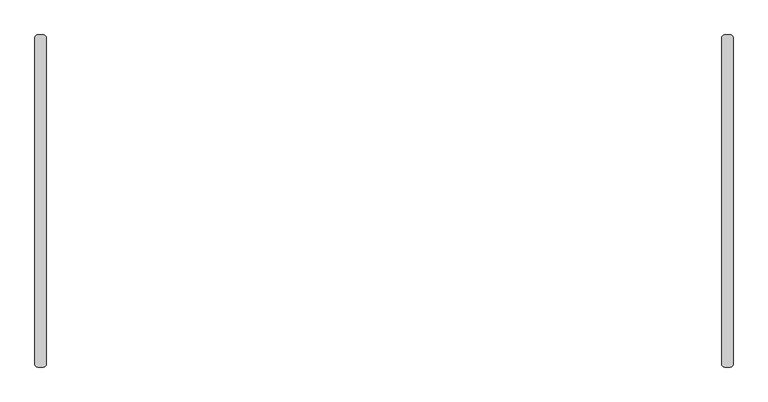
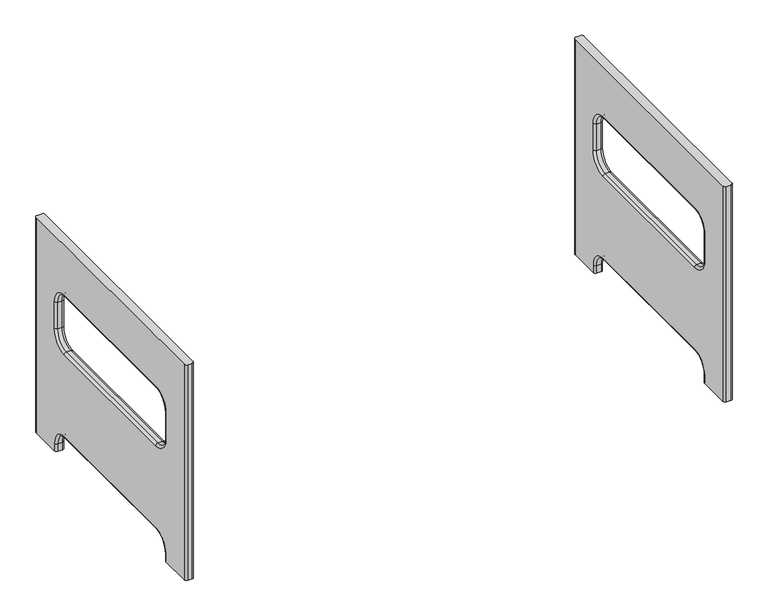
"""IFC4 building model written with IfcOpenShell, lengths in millimetres: furniture geometry, SSL-Childcraft_Outdoor-Table-Rectangle : 2161350."""

from ifc_helpers import new_model, si_unit, point, frame, origin, place, context, project, spatial, polyline, circle_curve, ellipse_curve, trimmed, source, transform, mapped, element, save
from ifc_brep_helpers import plane_surface, cylinder_surface, revolved_surface, advanced_brep


def furniture_e856df1a(model_context):
    return source(origin(), model_context, "Body", "AdvancedBrep", [
        advanced_brep(
        [(-573.0875, 279.4, 488.95), (-582.6125, 279.4, 488.95), (-587.375, 274.6375, 488.95), (-587.375, -274.6375, 488.95), (-582.6125, -279.4, 488.95), (-573.0875, -279.4, 488.95), (-568.325, -274.6375, 488.95), (-568.325, 274.6375, 488.95), (-573.0875, 279.4, 0.0), (-568.325, 274.6375, 0.0), (-568.325, 207.16875, 0.0), (-573.0875, 202.40625, 0.0), (-582.6125, 202.40625, 0.0), (-587.375, 207.16875, 0.0), (-587.375, 274.6375, 0.0), (-582.6125, 279.4, 0.0), (-573.0875, -279.4, 0.0), (-582.6125, -279.4, 0.0), (-587.375, -274.6375, 0.0), (-587.375, -207.16875, 0.0), (-582.6125, -202.40625, 0.0), (-573.0875, -202.40625, 0.0), (-568.325, -207.16875, 0.0), (-568.325, -274.6375, 0.0), (-587.375, 207.16875, 17.4625), (-587.375, 169.8625, 54.76875), (-587.375, -169.8625, 54.76875), (-587.375, -207.16875, 17.4625), (-587.375, -169.8625, 375.44375), (-587.375, -207.16875, 338.1375), (-587.375, -207.16875, 277.8125), (-587.375, -169.8625, 240.50625), (-587.375, 169.8625, 240.50625), (-587.375, 207.16875, 277.8125), (-587.375, 207.16875, 338.1375), (-587.375, 169.8625, 375.44375), (-568.325, -207.16875, 17.4625), (-568.325, -169.8625, 54.76875), (-568.325, 169.8625, 54.76875), (-568.325, 207.16875, 17.4625), (-568.325, -207.16875, 338.1375), (-568.325, -169.8625, 375.44375), (-568.325, 169.8625, 375.44375), (-568.325, 207.16875, 338.1375), (-568.325, 207.16875, 277.8125), (-568.325, 169.8625, 240.50625), (-568.325, -169.8625, 240.50625), (-568.325, -207.16875, 277.8125), (-582.6125, -202.40625, 17.4625), (-573.0875, -202.40625, 17.4625), (-582.6125, -169.8625, 50.00625), (-573.0875, -169.8625, 50.00625), (-582.6125, 169.8625, 50.00625), (-573.0875, 169.8625, 50.00625), (-582.6125, 202.40625, 17.4625), (-573.0875, 202.40625, 17.4625), (-573.0875, -202.40625, 338.1375), (-573.0875, -169.8625, 370.68125), (-582.6125, -202.40625, 338.1375), (-582.6125, -169.8625, 370.68125), (-573.0875, -202.40625, 277.8125), (-582.6125, -202.40625, 277.8125), (-573.0875, -169.8625, 245.26875), (-582.6125, -169.8625, 245.26875), (-573.0875, 169.8625, 245.26875), (-582.6125, 169.8625, 245.26875), (-573.0875, 202.40625, 277.8125), (-582.6125, 202.40625, 277.8125), (-573.0875, 202.40625, 338.1375), (-582.6125, 202.40625, 338.1375), (-573.0875, 169.8625, 370.68125), (-582.6125, 169.8625, 370.68125)],
        [
            (0, 1),
            (1, 2, circle_curve(frame((-582.6125, 274.6375, 488.95), z_axis=(0.0, 0.0, 1.0), x_axis=(1.0, 0.0, 0.0)), 4.7625)),
            (2, 3),
            (3, 4, circle_curve(frame((-582.6125, -274.6375, 488.95), z_axis=(0.0, 0.0, 1.0), x_axis=(1.0, 0.0, 0.0)), 4.7625)),
            (4, 5),
            (5, 6, circle_curve(frame((-573.0875, -274.6375, 488.95), z_axis=(0.0, 0.0, 1.0), x_axis=(1.0, 0.0, 0.0)), 4.7625)),
            (6, 7),
            (7, 0, circle_curve(frame((-573.0875, 274.6375, 488.95), z_axis=(0.0, 0.0, 1.0), x_axis=(1.0, 0.0, 0.0)), 4.7625)),
            (8, 9, circle_curve(frame((-573.0875, 274.6375, 0.0), z_axis=(0.0, 0.0, -1.0), x_axis=(1.0, 0.0, 0.0)), 4.7625)),
            (9, 10),
            (10, 11, circle_curve(frame((-573.0875, 207.16875, 0.0), z_axis=(0.0, 0.0, -1.0), x_axis=(0.0, 1.0, 0.0)), 4.7625)),
            (11, 12),
            (12, 13, circle_curve(frame((-582.6125, 207.16875, 0.0), z_axis=(0.0, 0.0, -1.0), x_axis=(0.0, 1.0, 0.0)), 4.7625)),
            (13, 14),
            (14, 15, circle_curve(frame((-582.6125, 274.6375, 0.0), z_axis=(0.0, 0.0, -1.0), x_axis=(1.0, 0.0, 0.0)), 4.7625)),
            (15, 8),
            (16, 17),
            (17, 18, circle_curve(frame((-582.6125, -274.6375, 0.0), z_axis=(0.0, 0.0, -1.0), x_axis=(1.0, 0.0, 0.0)), 4.7625)),
            (18, 19),
            (19, 20, circle_curve(frame((-582.6125, -207.16875, 0.0), z_axis=(0.0, 0.0, -1.0), x_axis=(0.0, -1.0, 0.0)), 4.7625)),
            (20, 21),
            (21, 22, circle_curve(frame((-573.0875, -207.16875, 0.0), z_axis=(0.0, 0.0, -1.0), x_axis=(0.0, -1.0, 0.0)), 4.7625)),
            (22, 23),
            (23, 16, circle_curve(frame((-573.0875, -274.6375, 0.0), z_axis=(0.0, 0.0, -1.0), x_axis=(1.0, 0.0, 0.0)), 4.7625)),
            (0, 8),
            (15, 1),
            (14, 2),
            (13, 24),
            (24, 25, circle_curve(frame((-587.375, 169.8625, 17.4625), z_axis=(1.0, 0.0, 0.0), x_axis=(0.0, 0.0, 1.0)), 37.30625)),
            (25, 26),
            (26, 27, circle_curve(frame((-587.375, -169.8625, 17.4625), z_axis=(1.0, 0.0, 0.0), x_axis=(0.0, -1.0, 0.0)), 37.30625)),
            (27, 19),
            (18, 3),
            (28, 29, circle_curve(frame((-587.375, -169.8625, 338.1375), z_axis=(1.0, 0.0, 0.0), x_axis=(0.0, 0.0, 1.0)), 37.30625)),
            (29, 30),
            (30, 31, circle_curve(frame((-587.375, -169.8625, 277.8125), z_axis=(1.0, 0.0, 0.0), x_axis=(0.0, -1.0, 0.0)), 37.30625)),
            (31, 32),
            (32, 33, circle_curve(frame((-587.375, 169.8625, 277.8125), z_axis=(1.0, 0.0, 0.0), x_axis=(0.0, 0.0, -1.0)), 37.30625)),
            (33, 34),
            (34, 35, circle_curve(frame((-587.375, 169.8625, 338.1375), z_axis=(1.0, 0.0, 0.0), x_axis=(0.0, 1.0, 0.0)), 37.30625)),
            (35, 28),
            (9, 7),
            (6, 23),
            (22, 36),
            (36, 37, circle_curve(frame((-568.325, -169.8625, 17.4625), z_axis=(-1.0, 0.0, 0.0), x_axis=(0.0, -1.0, 0.0)), 37.30625)),
            (37, 38),
            (38, 39, circle_curve(frame((-568.325, 169.8625, 17.4625), z_axis=(-1.0, 0.0, 0.0), x_axis=(0.0, 0.0, 1.0)), 37.30625)),
            (39, 10),
            (40, 41, circle_curve(frame((-568.325, -169.8625, 338.1375), z_axis=(-1.0, 0.0, 0.0), x_axis=(0.0, 0.0, 1.0)), 37.30625)),
            (41, 42),
            (42, 43, circle_curve(frame((-568.325, 169.8625, 338.1375), z_axis=(-1.0, 0.0, 0.0), x_axis=(0.0, 1.0, 0.0)), 37.30625)),
            (43, 44),
            (44, 45, circle_curve(frame((-568.325, 169.8625, 277.8125), z_axis=(-1.0, 0.0, 0.0), x_axis=(0.0, 0.0, -1.0)), 37.30625)),
            (45, 46),
            (46, 47, circle_curve(frame((-568.325, -169.8625, 277.8125), z_axis=(-1.0, 0.0, 0.0), x_axis=(0.0, -1.0, 0.0)), 37.30625)),
            (47, 40),
            (5, 16),
            (17, 4),
            (27, 48, circle_curve(frame((-582.6125, -207.16875, 17.4625), z_axis=(0.0, 0.0, -1.0), x_axis=(0.0, -1.0, 0.0)), 4.7625)),
            (48, 20),
            (48, 49),
            (49, 21),
            (49, 36, circle_curve(frame((-573.0875, -207.16875, 17.4625), z_axis=(0.0, 0.0, -1.0), x_axis=(0.0, -1.0, 0.0)), 4.7625)),
            (26, 50, circle_curve(frame((-582.6125, -169.8625, 54.76875), z_axis=(0.0, -1.0, 0.0), x_axis=(0.0, 0.0, 1.0)), 4.7625)),
            (50, 48, circle_curve(frame((-582.6125, -169.8625, 17.4625), z_axis=(1.0, 0.0, 0.0), x_axis=(0.0, -1.0, 0.0)), 32.54375)),
            (50, 51),
            (51, 49, circle_curve(frame((-573.0875, -169.8625, 17.4625), z_axis=(1.0, 0.0, 0.0), x_axis=(0.0, -1.0, 0.0)), 32.54375)),
            (51, 37, circle_curve(frame((-573.0875, -169.8625, 54.76875), z_axis=(0.0, -1.0, 0.0), x_axis=(0.0, 0.0, 1.0)), 4.7625)),
            (25, 52, circle_curve(frame((-582.6125, 169.8625, 54.76875), z_axis=(0.0, -1.0, 0.0), x_axis=(0.0, 0.0, 1.0)), 4.7625)),
            (52, 50),
            (52, 53),
            (53, 51),
            (53, 38, circle_curve(frame((-573.0875, 169.8625, 54.76875), z_axis=(0.0, -1.0, 0.0), x_axis=(0.0, 0.0, 1.0)), 4.7625)),
            (24, 54, circle_curve(frame((-582.6125, 207.16875, 17.4625), z_axis=(0.0, 0.0, 1.0), x_axis=(0.0, 1.0, 0.0)), 4.7625)),
            (54, 52, circle_curve(frame((-582.6125, 169.8625, 17.4625), z_axis=(1.0, 0.0, 0.0), x_axis=(0.0, 0.0, 1.0)), 32.54375)),
            (54, 55),
            (55, 53, circle_curve(frame((-573.0875, 169.8625, 17.4625), z_axis=(1.0, 0.0, 0.0), x_axis=(0.0, 0.0, 1.0)), 32.54375)),
            (55, 39, circle_curve(frame((-573.0875, 207.16875, 17.4625), z_axis=(0.0, 0.0, 1.0), x_axis=(0.0, 1.0, 0.0)), 4.7625)),
            (12, 54),
            (11, 55),
            (56, 57, circle_curve(frame((-573.0875, -169.8625, 338.1375), z_axis=(-1.0, 0.0, 0.0), x_axis=(0.0, 0.0, 1.0)), 32.54375)),
            (57, 41, circle_curve(frame((-573.0875, -169.8625, 375.44375), z_axis=(0.0, -1.0, 0.0), x_axis=(0.0, 0.0, -1.0)), 4.7625)),
            (40, 56, circle_curve(frame((-573.0875, -207.16875, 338.1375), z_axis=(0.0, 0.0, 1.0), x_axis=(0.0, 1.0, 0.0)), 4.7625)),
            (56, 58),
            (58, 59, circle_curve(frame((-582.6125, -169.8625, 338.1375), z_axis=(-1.0, 0.0, 0.0), x_axis=(0.0, 0.0, 1.0)), 32.54375)),
            (59, 57),
            (58, 29, circle_curve(frame((-582.6125, -207.16875, 338.1375), z_axis=(0.0, 0.0, 1.0), x_axis=(0.0, 1.0, 0.0)), 4.7625)),
            (28, 59, circle_curve(frame((-582.6125, -169.8625, 375.44375), z_axis=(0.0, -1.0, 0.0), x_axis=(0.0, 0.0, -1.0)), 4.7625)),
            (47, 60, circle_curve(frame((-573.0875, -207.16875, 277.8125), z_axis=(0.0, 0.0, 1.0), x_axis=(0.0, 1.0, 0.0)), 4.7625)),
            (60, 56),
            (60, 61),
            (61, 58),
            (61, 30, circle_curve(frame((-582.6125, -207.16875, 277.8125), z_axis=(0.0, 0.0, 1.0), x_axis=(0.0, 1.0, 0.0)), 4.7625)),
            (46, 62, circle_curve(frame((-573.0875, -169.8625, 240.50625), z_axis=(0.0, -1.0, 0.0), x_axis=(0.0, 0.0, 1.0)), 4.7625)),
            (62, 60, circle_curve(frame((-573.0875, -169.8625, 277.8125), z_axis=(-1.0, 0.0, 0.0), x_axis=(0.0, -1.0, 0.0)), 32.54375)),
            (62, 63),
            (63, 61, circle_curve(frame((-582.6125, -169.8625, 277.8125), z_axis=(-1.0, 0.0, 0.0), x_axis=(0.0, -1.0, 0.0)), 32.54375)),
            (63, 31, circle_curve(frame((-582.6125, -169.8625, 240.50625), z_axis=(0.0, -1.0, 0.0), x_axis=(0.0, 0.0, 1.0)), 4.7625)),
            (45, 64, circle_curve(frame((-573.0875, 169.8625, 240.50625), z_axis=(0.0, -1.0, 0.0), x_axis=(0.0, 0.0, 1.0)), 4.7625)),
            (64, 62),
            (64, 65),
            (65, 63),
            (65, 32, circle_curve(frame((-582.6125, 169.8625, 240.50625), z_axis=(0.0, -1.0, 0.0), x_axis=(0.0, 0.0, 1.0)), 4.7625)),
            (44, 66, circle_curve(frame((-573.0875, 207.16875, 277.8125), z_axis=(0.0, 0.0, -1.0), x_axis=(0.0, -1.0, 0.0)), 4.7625)),
            (66, 64, circle_curve(frame((-573.0875, 169.8625, 277.8125), z_axis=(-1.0, 0.0, 0.0), x_axis=(0.0, 0.0, -1.0)), 32.54375)),
            (66, 67),
            (67, 65, circle_curve(frame((-582.6125, 169.8625, 277.8125), z_axis=(-1.0, 0.0, 0.0), x_axis=(0.0, 0.0, -1.0)), 32.54375)),
            (67, 33, circle_curve(frame((-582.6125, 207.16875, 277.8125), z_axis=(0.0, 0.0, -1.0), x_axis=(0.0, -1.0, 0.0)), 4.7625)),
            (43, 68, circle_curve(frame((-573.0875, 207.16875, 338.1375), z_axis=(0.0, 0.0, -1.0), x_axis=(0.0, -1.0, 0.0)), 4.7625)),
            (68, 66),
            (68, 69),
            (69, 67),
            (69, 34, circle_curve(frame((-582.6125, 207.16875, 338.1375), z_axis=(0.0, 0.0, -1.0), x_axis=(0.0, -1.0, 0.0)), 4.7625)),
            (42, 70, circle_curve(frame((-573.0875, 169.8625, 375.44375), z_axis=(0.0, 1.0, 0.0), x_axis=(0.0, 0.0, -1.0)), 4.7625)),
            (70, 68, circle_curve(frame((-573.0875, 169.8625, 338.1375), z_axis=(-1.0, 0.0, 0.0), x_axis=(0.0, 1.0, 0.0)), 32.54375)),
            (70, 71),
            (71, 69, circle_curve(frame((-582.6125, 169.8625, 338.1375), z_axis=(-1.0, 0.0, 0.0), x_axis=(0.0, 1.0, 0.0)), 32.54375)),
            (71, 35, circle_curve(frame((-582.6125, 169.8625, 375.44375), z_axis=(0.0, 1.0, 0.0), x_axis=(0.0, 0.0, -1.0)), 4.7625)),
            (57, 70),
            (59, 71),
        ],
        [
            plane_surface(frame((-582.6125, 279.4, 488.95), z_axis=(0.0, 0.0, 1.0), x_axis=(-1.0, 0.0, 0.0))),
            plane_surface(frame((-582.6125, 279.4, 0.0), z_axis=(0.0, 0.0, -1.0), x_axis=(1.0, 0.0, 0.0))),
            plane_surface(frame((-573.0875, 279.4, 488.95), z_axis=(0.0, 1.0, 0.0), x_axis=(0.0, 0.0, -1.0))),
            cylinder_surface(frame((-582.6125, 274.6375, 0.0), z_axis=(0.0, 0.0, 1.0), x_axis=(1.0, 0.0, 0.0)), 4.7625),
            plane_surface(frame((-587.375, 274.6375, 488.95), z_axis=(-1.0, 0.0, 0.0), x_axis=(0.0, 0.0, -1.0))),
            plane_surface(frame((-568.325, 273.84375, 488.95), z_axis=(1.0, 0.0, 0.0), x_axis=(0.0, 0.0, -1.0))),
            cylinder_surface(frame((-573.0875, 274.6375, 0.0), z_axis=(0.0, 0.0, 1.0), x_axis=(1.0, 0.0, 0.0)), 4.7625),
            cylinder_surface(frame((-573.0875, -274.6375, 0.0), z_axis=(0.0, 0.0, 1.0), x_axis=(1.0, 0.0, 0.0)), 4.7625),
            cylinder_surface(frame((-582.6125, -274.6375, 0.0), z_axis=(0.0, 0.0, 1.0), x_axis=(1.0, 0.0, 0.0)), 4.7625),
            plane_surface(frame((-582.6125, -279.4, 488.95), z_axis=(0.0, -1.0, 0.0), x_axis=(0.0, 0.0, -1.0))),
            cylinder_surface(frame((-582.6125, -207.16875, 0.0), z_axis=(0.0, 0.0, -1.0), x_axis=(0.0, -1.0, 0.0)), 4.7625),
            plane_surface(frame((-582.6125, -202.40625, 0.0), z_axis=(0.0, 1.0, 0.0), x_axis=(0.0, 0.0, 1.0))),
            cylinder_surface(frame((-573.0875, -207.16875, 0.0), z_axis=(0.0, 0.0, -1.0), x_axis=(0.0, -1.0, 0.0)), 4.7625),
            revolved_surface(trimmed(ellipse_curve(frame((-582.6125, -207.16875, 17.4625), z_axis=(0.0, 0.0, -1.0), x_axis=(0.0, -1.0, 0.0)), 4.7625, 4.7625), [point((-587.375, -207.16875, 17.4625))], [point((-582.6125, -202.40625, 17.4625))], True, "CARTESIAN"), (0.0, -169.8625, 17.4625), (-1.0, 0.0, 0.0)),
            revolved_surface(polyline([(-582.6125, -202.40625, 17.4625), (-573.0875, -202.40625, 17.4625)]), (0.0, -169.8625, 17.4625), (-1.0, 0.0, 0.0)),
            revolved_surface(trimmed(ellipse_curve(frame((-573.0875, -207.16875, 17.4625), z_axis=(0.0, 0.0, -1.0), x_axis=(0.0, -1.0, 0.0)), 4.7625, 4.7625), [point((-573.0875, -202.40625, 17.4625))], [point((-568.325, -207.16875, 17.4625))], True, "CARTESIAN"), (0.0, -169.8625, 17.4625), (-1.0, 0.0, 0.0)),
            cylinder_surface(frame((-582.6125, -169.8625, 54.76875), z_axis=(0.0, -1.0, 0.0), x_axis=(0.0, 0.0, 1.0)), 4.7625),
            plane_surface(frame((-582.6125, -169.8625, 50.00625), z_axis=(0.0, 0.0, -1.0), x_axis=(0.0, 1.0, 0.0))),
            cylinder_surface(frame((-573.0875, -169.8625, 54.76875), z_axis=(0.0, -1.0, 0.0), x_axis=(0.0, 0.0, 1.0)), 4.7625),
            revolved_surface(trimmed(ellipse_curve(frame((-582.6125, 169.8625, 54.76875), z_axis=(0.0, -1.0, 0.0), x_axis=(0.0, 0.0, 1.0)), 4.7625, 4.7625), [point((-587.375, 169.8625, 54.76875))], [point((-582.6125, 169.8625, 50.00625))], True, "CARTESIAN"), (0.0, 169.8625, 17.4625), (-1.0, 0.0, 0.0)),
            revolved_surface(polyline([(-582.6125, 169.8625, 50.00625), (-573.0875, 169.8625, 50.00625)]), (0.0, 169.8625, 17.4625), (-1.0, 0.0, 0.0)),
            revolved_surface(trimmed(ellipse_curve(frame((-573.0875, 169.8625, 54.76875), z_axis=(0.0, -1.0, 0.0), x_axis=(0.0, 0.0, 1.0)), 4.7625, 4.7625), [point((-573.0875, 169.8625, 50.00625))], [point((-568.325, 169.8625, 54.76875))], True, "CARTESIAN"), (0.0, 169.8625, 17.4625), (-1.0, 0.0, 0.0)),
            cylinder_surface(frame((-582.6125, 207.16875, 17.4625), z_axis=(0.0, 0.0, 1.0), x_axis=(0.0, 1.0, 0.0)), 4.7625),
            plane_surface(frame((-582.6125, 202.40625, 17.4625), z_axis=(0.0, -1.0, 0.0), x_axis=(0.0, 0.0, -1.0))),
            cylinder_surface(frame((-573.0875, 207.16875, 17.4625), z_axis=(0.0, 0.0, 1.0), x_axis=(0.0, 1.0, 0.0)), 4.7625),
            revolved_surface(trimmed(ellipse_curve(frame((-573.0875, -169.8625, 375.44375), z_axis=(0.0, 1.0, 0.0), x_axis=(0.0, 0.0, -1.0)), 4.7625, 4.7625), [point((-568.325, -169.8625, 375.44375))], [point((-573.0875, -169.8625, 370.68125))], True, "CARTESIAN"), (0.0, -169.8625, 338.1375), (1.0, 0.0, 0.0)),
            revolved_surface(polyline([(-573.0875, -169.8625, 370.68125), (-582.6125, -169.8625, 370.68125)]), (0.0, -169.8625, 338.1375), (1.0, 0.0, 0.0)),
            revolved_surface(trimmed(ellipse_curve(frame((-582.6125, -169.8625, 375.44375), z_axis=(0.0, 1.0, 0.0), x_axis=(0.0, 0.0, -1.0)), 4.7625, 4.7625), [point((-582.6125, -169.8625, 370.68125))], [point((-587.375, -169.8625, 375.44375))], True, "CARTESIAN"), (0.0, -169.8625, 338.1375), (1.0, 0.0, 0.0)),
            cylinder_surface(frame((-573.0875, -207.16875, 338.1375), z_axis=(0.0, 0.0, 1.0), x_axis=(0.0, 1.0, 0.0)), 4.7625),
            plane_surface(frame((-573.0875, -202.40625, 338.1375), z_axis=(0.0, 1.0, 0.0), x_axis=(0.0, 0.0, -1.0))),
            cylinder_surface(frame((-582.6125, -207.16875, 338.1375), z_axis=(0.0, 0.0, 1.0), x_axis=(0.0, 1.0, 0.0)), 4.7625),
            revolved_surface(trimmed(ellipse_curve(frame((-573.0875, -207.16875, 277.8125), z_axis=(0.0, 0.0, 1.0), x_axis=(0.0, 1.0, 0.0)), 4.7625, 4.7625), [point((-568.325, -207.16875, 277.8125))], [point((-573.0875, -202.40625, 277.8125))], True, "CARTESIAN"), (0.0, -169.8625, 277.8125), (1.0, 0.0, 0.0)),
            revolved_surface(polyline([(-573.0875, -202.40625, 277.8125), (-582.6125, -202.40625, 277.8125)]), (0.0, -169.8625, 277.8125), (1.0, 0.0, 0.0)),
            revolved_surface(trimmed(ellipse_curve(frame((-582.6125, -207.16875, 277.8125), z_axis=(0.0, 0.0, 1.0), x_axis=(0.0, 1.0, 0.0)), 4.7625, 4.7625), [point((-582.6125, -202.40625, 277.8125))], [point((-587.375, -207.16875, 277.8125))], True, "CARTESIAN"), (0.0, -169.8625, 277.8125), (1.0, 0.0, 0.0)),
            cylinder_surface(frame((-573.0875, -169.8625, 240.50625), z_axis=(0.0, -1.0, 0.0), x_axis=(0.0, 0.0, 1.0)), 4.7625),
            plane_surface(frame((-573.0875, -169.8625, 245.26875), z_axis=(0.0, 0.0, 1.0), x_axis=(0.0, 1.0, 0.0))),
            cylinder_surface(frame((-582.6125, -169.8625, 240.50625), z_axis=(0.0, -1.0, 0.0), x_axis=(0.0, 0.0, 1.0)), 4.7625),
            revolved_surface(trimmed(ellipse_curve(frame((-573.0875, 169.8625, 240.50625), z_axis=(0.0, -1.0, 0.0), x_axis=(0.0, 0.0, 1.0)), 4.7625, 4.7625), [point((-568.325, 169.8625, 240.50625))], [point((-573.0875, 169.8625, 245.26875))], True, "CARTESIAN"), (0.0, 169.8625, 277.8125), (1.0, 0.0, 0.0)),
            revolved_surface(polyline([(-573.0875, 169.8625, 245.26875), (-582.6125, 169.8625, 245.26875)]), (0.0, 169.8625, 277.8125), (1.0, 0.0, 0.0)),
            revolved_surface(trimmed(ellipse_curve(frame((-582.6125, 169.8625, 240.50625), z_axis=(0.0, -1.0, 0.0), x_axis=(0.0, 0.0, 1.0)), 4.7625, 4.7625), [point((-582.6125, 169.8625, 245.26875))], [point((-587.375, 169.8625, 240.50625))], True, "CARTESIAN"), (0.0, 169.8625, 277.8125), (1.0, 0.0, 0.0)),
            cylinder_surface(frame((-573.0875, 207.16875, 277.8125), z_axis=(0.0, 0.0, -1.0), x_axis=(0.0, -1.0, 0.0)), 4.7625),
            plane_surface(frame((-573.0875, 202.40625, 277.8125), z_axis=(0.0, -1.0, 0.0), x_axis=(0.0, 0.0, 1.0))),
            cylinder_surface(frame((-582.6125, 207.16875, 277.8125), z_axis=(0.0, 0.0, -1.0), x_axis=(0.0, -1.0, 0.0)), 4.7625),
            revolved_surface(trimmed(ellipse_curve(frame((-573.0875, 207.16875, 338.1375), z_axis=(0.0, 0.0, -1.0), x_axis=(0.0, -1.0, 0.0)), 4.7625, 4.7625), [point((-568.325, 207.16875, 338.1375))], [point((-573.0875, 202.40625, 338.1375))], True, "CARTESIAN"), (0.0, 169.8625, 338.1375), (1.0, 0.0, 0.0)),
            revolved_surface(polyline([(-573.0875, 202.40625, 338.1375), (-582.6125, 202.40625, 338.1375)]), (0.0, 169.8625, 338.1375), (1.0, 0.0, 0.0)),
            revolved_surface(trimmed(ellipse_curve(frame((-582.6125, 207.16875, 338.1375), z_axis=(0.0, 0.0, -1.0), x_axis=(0.0, -1.0, 0.0)), 4.7625, 4.7625), [point((-582.6125, 202.40625, 338.1375))], [point((-587.375, 207.16875, 338.1375))], True, "CARTESIAN"), (0.0, 169.8625, 338.1375), (1.0, 0.0, 0.0)),
            cylinder_surface(frame((-573.0875, 169.8625, 375.44375), z_axis=(0.0, 1.0, 0.0), x_axis=(0.0, 0.0, -1.0)), 4.7625),
            plane_surface(frame((-573.0875, 169.8625, 370.68125), z_axis=(0.0, 0.0, -1.0), x_axis=(0.0, -1.0, 0.0))),
            cylinder_surface(frame((-582.6125, 169.8625, 375.44375), z_axis=(0.0, 1.0, 0.0), x_axis=(0.0, 0.0, -1.0)), 4.7625),
        ],
        [
            (0, [[1, 2, 3, 4, 5, 6, 7, 8]]),
            (1, [[9, 10, 11, 12, 13, 14, 15, 16]]),
            (1, [[17, 18, 19, 20, 21, 22, 23, 24]]),
            (2, [[-1, 25, -16, 26]]),
            (3, [[-2, -26, -15, 27]]),
            (4, [[-27, -14, 28, 29, 30, 31, 32, -19, 33, -3], [34, 35, 36, 37, 38, 39, 40, 41]]),
            (5, [[42, -7, 43, -23, 44, 45, 46, 47, 48, -10], [49, 50, 51, 52, 53, 54, 55, 56]]),
            (6, [[-8, -42, -9, -25]]),
            (7, [[-6, 57, -24, -43]]),
            (8, [[-4, -33, -18, 58]]),
            (9, [[-5, -58, -17, -57]]),
            (10, [[-20, -32, 59, 60]]),
            (11, [[-21, -60, 61, 62]]),
            (12, [[-22, -62, 63, -44]]),
            (13, [[-31, 64, 65, -59]]),
            (14, [[-61, -65, 66, 67]]),
            (15, [[-63, -67, 68, -45]]),
            (16, [[-30, 69, 70, -64]]),
            (17, [[-66, -70, 71, 72]]),
            (18, [[-46, -68, -72, 73]]),
            (19, [[-29, 74, 75, -69]]),
            (20, [[-71, -75, 76, 77]]),
            (21, [[-47, -73, -77, 78]]),
            (22, [[-28, -13, 79, -74]]),
            (23, [[-76, -79, -12, 80]]),
            (24, [[-48, -78, -80, -11]]),
            (25, [[81, 82, -49, 83]]),
            (26, [[-81, 84, 85, 86]]),
            (27, [[-85, 87, -34, 88]]),
            (28, [[-83, -56, 89, 90]]),
            (29, [[-84, -90, 91, 92]]),
            (30, [[-87, -92, 93, -35]]),
            (31, [[-89, -55, 94, 95]]),
            (32, [[-91, -95, 96, 97]]),
            (33, [[-93, -97, 98, -36]]),
            (34, [[-94, -54, 99, 100]]),
            (35, [[-96, -100, 101, 102]]),
            (36, [[-98, -102, 103, -37]]),
            (37, [[-99, -53, 104, 105]]),
            (38, [[-101, -105, 106, 107]]),
            (39, [[-103, -107, 108, -38]]),
            (40, [[-104, -52, 109, 110]]),
            (41, [[-106, -110, 111, 112]]),
            (42, [[-108, -112, 113, -39]]),
            (43, [[-109, -51, 114, 115]]),
            (44, [[-111, -115, 116, 117]]),
            (45, [[-113, -117, 118, -40]]),
            (46, [[-82, 119, -114, -50]]),
            (47, [[-86, 120, -116, -119]]),
            (48, [[-88, -41, -118, -120]]),
        ],
    ),
        advanced_brep(
        [(573.0875, 279.4, 488.95), (568.325, 274.6375, 488.95), (568.325, -274.6375, 488.95), (573.0875, -279.4, 488.95), (582.6125, -279.4, 488.95), (587.375, -274.6375, 488.95), (587.375, 274.6375, 488.95), (582.6125, 279.4, 488.95), (573.0875, 279.4, 0.0), (582.6125, 279.4, 0.0), (587.375, 274.6375, 0.0), (587.375, 207.16875, 0.0), (582.6125, 202.40625, 0.0), (573.0875, 202.40625, 0.0), (568.325, 207.16875, 0.0), (568.325, 274.6375, 0.0), (568.325, -207.16875, 0.0), (573.0875, -202.40625, 0.0), (582.6125, -202.40625, 0.0), (587.375, -207.16875, 0.0), (587.375, -274.6375, 0.0), (582.6125, -279.4, 0.0), (573.0875, -279.4, 0.0), (568.325, -274.6375, 0.0), (568.325, 207.16875, 17.4625), (568.325, 169.8625, 54.76875), (568.325, -169.8625, 54.76875), (568.325, -207.16875, 17.4625), (568.325, -169.8625, 375.44375), (568.325, -207.16875, 338.1375), (568.325, -207.16875, 277.8125), (568.325, -169.8625, 240.50625), (568.325, 169.8625, 240.50625), (568.325, 207.16875, 277.8125), (568.325, 207.16875, 338.1375), (568.325, 169.8625, 375.44375), (587.375, -207.16875, 17.4625), (587.375, -169.8625, 54.76875), (587.375, 169.8625, 54.76875), (587.375, 207.16875, 17.4625), (587.375, -207.16875, 338.1375), (587.375, -169.8625, 375.44375), (587.375, 169.8625, 375.44375), (587.375, 207.16875, 338.1375), (587.375, 207.16875, 277.8125), (587.375, 169.8625, 240.50625), (587.375, -169.8625, 240.50625), (587.375, -207.16875, 277.8125), (573.0875, -202.40625, 17.4625), (582.6125, -202.40625, 17.4625), (573.0875, -169.8625, 50.00625), (582.6125, -169.8625, 50.00625), (573.0875, 169.8625, 50.00625), (582.6125, 169.8625, 50.00625), (573.0875, 202.40625, 17.4625), (582.6125, 202.40625, 17.4625), (582.6125, -202.40625, 338.1375), (582.6125, -169.8625, 370.68125), (573.0875, -202.40625, 338.1375), (573.0875, -169.8625, 370.68125), (582.6125, -202.40625, 277.8125), (573.0875, -202.40625, 277.8125), (582.6125, -169.8625, 245.26875), (573.0875, -169.8625, 245.26875), (582.6125, 169.8625, 245.26875), (573.0875, 169.8625, 245.26875), (582.6125, 202.40625, 277.8125), (573.0875, 202.40625, 277.8125), (582.6125, 202.40625, 338.1375), (573.0875, 202.40625, 338.1375), (582.6125, 169.8625, 370.68125), (573.0875, 169.8625, 370.68125)],
        [
            (0, 1, circle_curve(frame((573.0875, 274.6375, 488.95), z_axis=(0.0, 0.0, 1.0), x_axis=(1.0, 0.0, 0.0)), 4.7625)),
            (1, 2),
            (2, 3, circle_curve(frame((573.0875, -274.6375, 488.95), z_axis=(0.0, 0.0, 1.0), x_axis=(1.0, 0.0, 0.0)), 4.7625)),
            (3, 4),
            (4, 5, circle_curve(frame((582.6125, -274.6375, 488.95), z_axis=(0.0, 0.0, 1.0), x_axis=(1.0, 0.0, 0.0)), 4.7625)),
            (5, 6),
            (6, 7, circle_curve(frame((582.6125, 274.6375, 488.95), z_axis=(0.0, 0.0, 1.0), x_axis=(1.0, 0.0, 0.0)), 4.7625)),
            (7, 0),
            (8, 9),
            (9, 10, circle_curve(frame((582.6125, 274.6375, 0.0), z_axis=(0.0, 0.0, -1.0), x_axis=(1.0, 0.0, 0.0)), 4.7625)),
            (10, 11),
            (11, 12, circle_curve(frame((582.6125, 207.16875, 0.0), z_axis=(0.0, 0.0, -1.0), x_axis=(0.0, 1.0, 0.0)), 4.7625)),
            (12, 13),
            (13, 14, circle_curve(frame((573.0875, 207.16875, 0.0), z_axis=(0.0, 0.0, -1.0), x_axis=(0.0, 1.0, 0.0)), 4.7625)),
            (14, 15),
            (15, 8, circle_curve(frame((573.0875, 274.6375, 0.0), z_axis=(0.0, 0.0, -1.0), x_axis=(1.0, 0.0, 0.0)), 4.7625)),
            (16, 17, circle_curve(frame((573.0875, -207.16875, 0.0), z_axis=(0.0, 0.0, -1.0), x_axis=(0.0, -1.0, 0.0)), 4.7625)),
            (17, 18),
            (18, 19, circle_curve(frame((582.6125, -207.16875, 0.0), z_axis=(0.0, 0.0, -1.0), x_axis=(0.0, -1.0, 0.0)), 4.7625)),
            (19, 20),
            (20, 21, circle_curve(frame((582.6125, -274.6375, 0.0), z_axis=(0.0, 0.0, -1.0), x_axis=(1.0, 0.0, 0.0)), 4.7625)),
            (21, 22),
            (22, 23, circle_curve(frame((573.0875, -274.6375, 0.0), z_axis=(0.0, 0.0, -1.0), x_axis=(1.0, 0.0, 0.0)), 4.7625)),
            (23, 16),
            (0, 8),
            (15, 1),
            (14, 24),
            (24, 25, circle_curve(frame((568.325, 169.8625, 17.4625), z_axis=(1.0, 0.0, 0.0), x_axis=(0.0, 0.0, 1.0)), 37.30625)),
            (25, 26),
            (26, 27, circle_curve(frame((568.325, -169.8625, 17.4625), z_axis=(1.0, 0.0, 0.0), x_axis=(0.0, -1.0, 0.0)), 37.30625)),
            (27, 16),
            (23, 2),
            (28, 29, circle_curve(frame((568.325, -169.8625, 338.1375), z_axis=(1.0, 0.0, 0.0), x_axis=(0.0, 0.0, 1.0)), 37.30625)),
            (29, 30),
            (30, 31, circle_curve(frame((568.325, -169.8625, 277.8125), z_axis=(1.0, 0.0, 0.0), x_axis=(0.0, -1.0, 0.0)), 37.30625)),
            (31, 32),
            (32, 33, circle_curve(frame((568.325, 169.8625, 277.8125), z_axis=(1.0, 0.0, 0.0), x_axis=(0.0, 0.0, -1.0)), 37.30625)),
            (33, 34),
            (34, 35, circle_curve(frame((568.325, 169.8625, 338.1375), z_axis=(1.0, 0.0, 0.0), x_axis=(0.0, 1.0, 0.0)), 37.30625)),
            (35, 28),
            (5, 20),
            (19, 36),
            (36, 37, circle_curve(frame((587.375, -169.8625, 17.4625), z_axis=(-1.0, 0.0, 0.0), x_axis=(0.0, -1.0, 0.0)), 37.30625)),
            (37, 38),
            (38, 39, circle_curve(frame((587.375, 169.8625, 17.4625), z_axis=(-1.0, 0.0, 0.0), x_axis=(0.0, 0.0, 1.0)), 37.30625)),
            (39, 11),
            (10, 6),
            (40, 41, circle_curve(frame((587.375, -169.8625, 338.1375), z_axis=(-1.0, 0.0, 0.0), x_axis=(0.0, 0.0, 1.0)), 37.30625)),
            (41, 42),
            (42, 43, circle_curve(frame((587.375, 169.8625, 338.1375), z_axis=(-1.0, 0.0, 0.0), x_axis=(0.0, 1.0, 0.0)), 37.30625)),
            (43, 44),
            (44, 45, circle_curve(frame((587.375, 169.8625, 277.8125), z_axis=(-1.0, 0.0, 0.0), x_axis=(0.0, 0.0, -1.0)), 37.30625)),
            (45, 46),
            (46, 47, circle_curve(frame((587.375, -169.8625, 277.8125), z_axis=(-1.0, 0.0, 0.0), x_axis=(0.0, -1.0, 0.0)), 37.30625)),
            (47, 40),
            (9, 7),
            (3, 22),
            (21, 4),
            (17, 48),
            (48, 49),
            (49, 18),
            (48, 50, circle_curve(frame((573.0875, -169.8625, 17.4625), z_axis=(-1.0, 0.0, 0.0), x_axis=(0.0, -1.0, 0.0)), 32.54375)),
            (50, 51),
            (51, 49, circle_curve(frame((582.6125, -169.8625, 17.4625), z_axis=(1.0, 0.0, 0.0), x_axis=(0.0, -1.0, 0.0)), 32.54375)),
            (50, 52),
            (52, 53),
            (53, 51),
            (52, 54, circle_curve(frame((573.0875, 169.8625, 17.4625), z_axis=(-1.0, 0.0, 0.0), x_axis=(0.0, 0.0, 1.0)), 32.54375)),
            (54, 55),
            (55, 53, circle_curve(frame((582.6125, 169.8625, 17.4625), z_axis=(1.0, 0.0, 0.0), x_axis=(0.0, 0.0, 1.0)), 32.54375)),
            (54, 13),
            (12, 55),
            (27, 48, circle_curve(frame((573.0875, -207.16875, 17.4625), z_axis=(0.0, 0.0, -1.0), x_axis=(0.0, -1.0, 0.0)), 4.7625)),
            (49, 36, circle_curve(frame((582.6125, -207.16875, 17.4625), z_axis=(0.0, 0.0, -1.0), x_axis=(0.0, -1.0, 0.0)), 4.7625)),
            (26, 50, circle_curve(frame((573.0875, -169.8625, 54.76875), z_axis=(0.0, -1.0, 0.0), x_axis=(0.0, 0.0, 1.0)), 4.7625)),
            (51, 37, circle_curve(frame((582.6125, -169.8625, 54.76875), z_axis=(0.0, -1.0, 0.0), x_axis=(0.0, 0.0, 1.0)), 4.7625)),
            (25, 52, circle_curve(frame((573.0875, 169.8625, 54.76875), z_axis=(0.0, -1.0, 0.0), x_axis=(0.0, 0.0, 1.0)), 4.7625)),
            (53, 38, circle_curve(frame((582.6125, 169.8625, 54.76875), z_axis=(0.0, -1.0, 0.0), x_axis=(0.0, 0.0, 1.0)), 4.7625)),
            (24, 54, circle_curve(frame((573.0875, 207.16875, 17.4625), z_axis=(0.0, 0.0, 1.0), x_axis=(0.0, 1.0, 0.0)), 4.7625)),
            (55, 39, circle_curve(frame((582.6125, 207.16875, 17.4625), z_axis=(0.0, 0.0, 1.0), x_axis=(0.0, 1.0, 0.0)), 4.7625)),
            (56, 57, circle_curve(frame((582.6125, -169.8625, 338.1375), z_axis=(-1.0, 0.0, 0.0), x_axis=(0.0, 0.0, 1.0)), 32.54375)),
            (57, 41, circle_curve(frame((582.6125, -169.8625, 375.44375), z_axis=(0.0, -1.0, 0.0), x_axis=(0.0, 0.0, -1.0)), 4.7625)),
            (40, 56, circle_curve(frame((582.6125, -207.16875, 338.1375), z_axis=(0.0, 0.0, 1.0), x_axis=(0.0, 1.0, 0.0)), 4.7625)),
            (56, 58),
            (58, 59, circle_curve(frame((573.0875, -169.8625, 338.1375), z_axis=(-1.0, 0.0, 0.0), x_axis=(0.0, 0.0, 1.0)), 32.54375)),
            (59, 57),
            (58, 29, circle_curve(frame((573.0875, -207.16875, 338.1375), z_axis=(0.0, 0.0, 1.0), x_axis=(0.0, 1.0, 0.0)), 4.7625)),
            (28, 59, circle_curve(frame((573.0875, -169.8625, 375.44375), z_axis=(0.0, -1.0, 0.0), x_axis=(0.0, 0.0, -1.0)), 4.7625)),
            (47, 60, circle_curve(frame((582.6125, -207.16875, 277.8125), z_axis=(0.0, 0.0, 1.0), x_axis=(0.0, 1.0, 0.0)), 4.7625)),
            (60, 56),
            (60, 61),
            (61, 58),
            (61, 30, circle_curve(frame((573.0875, -207.16875, 277.8125), z_axis=(0.0, 0.0, 1.0), x_axis=(0.0, 1.0, 0.0)), 4.7625)),
            (46, 62, circle_curve(frame((582.6125, -169.8625, 240.50625), z_axis=(0.0, -1.0, 0.0), x_axis=(0.0, 0.0, 1.0)), 4.7625)),
            (62, 60, circle_curve(frame((582.6125, -169.8625, 277.8125), z_axis=(-1.0, 0.0, 0.0), x_axis=(0.0, -1.0, 0.0)), 32.54375)),
            (62, 63),
            (63, 61, circle_curve(frame((573.0875, -169.8625, 277.8125), z_axis=(-1.0, 0.0, 0.0), x_axis=(0.0, -1.0, 0.0)), 32.54375)),
            (63, 31, circle_curve(frame((573.0875, -169.8625, 240.50625), z_axis=(0.0, -1.0, 0.0), x_axis=(0.0, 0.0, 1.0)), 4.7625)),
            (45, 64, circle_curve(frame((582.6125, 169.8625, 240.50625), z_axis=(0.0, -1.0, 0.0), x_axis=(0.0, 0.0, 1.0)), 4.7625)),
            (64, 62),
            (64, 65),
            (65, 63),
            (65, 32, circle_curve(frame((573.0875, 169.8625, 240.50625), z_axis=(0.0, -1.0, 0.0), x_axis=(0.0, 0.0, 1.0)), 4.7625)),
            (44, 66, circle_curve(frame((582.6125, 207.16875, 277.8125), z_axis=(0.0, 0.0, -1.0), x_axis=(0.0, -1.0, 0.0)), 4.7625)),
            (66, 64, circle_curve(frame((582.6125, 169.8625, 277.8125), z_axis=(-1.0, 0.0, 0.0), x_axis=(0.0, 0.0, -1.0)), 32.54375)),
            (66, 67),
            (67, 65, circle_curve(frame((573.0875, 169.8625, 277.8125), z_axis=(-1.0, 0.0, 0.0), x_axis=(0.0, 0.0, -1.0)), 32.54375)),
            (67, 33, circle_curve(frame((573.0875, 207.16875, 277.8125), z_axis=(0.0, 0.0, -1.0), x_axis=(0.0, -1.0, 0.0)), 4.7625)),
            (43, 68, circle_curve(frame((582.6125, 207.16875, 338.1375), z_axis=(0.0, 0.0, -1.0), x_axis=(0.0, -1.0, 0.0)), 4.7625)),
            (68, 66),
            (68, 69),
            (69, 67),
            (69, 34, circle_curve(frame((573.0875, 207.16875, 338.1375), z_axis=(0.0, 0.0, -1.0), x_axis=(0.0, -1.0, 0.0)), 4.7625)),
            (42, 70, circle_curve(frame((582.6125, 169.8625, 375.44375), z_axis=(0.0, 1.0, 0.0), x_axis=(0.0, 0.0, -1.0)), 4.7625)),
            (70, 68, circle_curve(frame((582.6125, 169.8625, 338.1375), z_axis=(-1.0, 0.0, 0.0), x_axis=(0.0, 1.0, 0.0)), 32.54375)),
            (70, 71),
            (71, 69, circle_curve(frame((573.0875, 169.8625, 338.1375), z_axis=(-1.0, 0.0, 0.0), x_axis=(0.0, 1.0, 0.0)), 32.54375)),
            (71, 35, circle_curve(frame((573.0875, 169.8625, 375.44375), z_axis=(0.0, 1.0, 0.0), x_axis=(0.0, 0.0, -1.0)), 4.7625)),
            (57, 70),
            (59, 71),
        ],
        [
            plane_surface(frame((-582.6125, 279.4, 488.95), z_axis=(0.0, 0.0, 1.0), x_axis=(-1.0, 0.0, 0.0))),
            plane_surface(frame((-582.6125, 279.4, 0.0), z_axis=(0.0, 0.0, -1.0), x_axis=(1.0, 0.0, 0.0))),
            cylinder_surface(frame((573.0875, 274.6375, 0.0), z_axis=(0.0, 0.0, 1.0), x_axis=(1.0, 0.0, 0.0)), 4.7625),
            plane_surface(frame((568.325, 274.6375, 488.95), z_axis=(-1.0, 0.0, 0.0), x_axis=(0.0, 0.0, -1.0))),
            plane_surface(frame((587.375, 273.84375, 488.95), z_axis=(1.0, 0.0, 0.0), x_axis=(0.0, 0.0, -1.0))),
            cylinder_surface(frame((582.6125, 274.6375, 0.0), z_axis=(0.0, 0.0, 1.0), x_axis=(1.0, 0.0, 0.0)), 4.7625),
            plane_surface(frame((582.6125, 279.4, 488.95), z_axis=(0.0, 1.0, 0.0), x_axis=(0.0, 0.0, -1.0))),
            plane_surface(frame((573.0875, -279.4, 488.95), z_axis=(0.0, -1.0, 0.0), x_axis=(0.0, 0.0, -1.0))),
            cylinder_surface(frame((582.6125, -274.6375, 0.0), z_axis=(0.0, 0.0, 1.0), x_axis=(1.0, 0.0, 0.0)), 4.7625),
            cylinder_surface(frame((573.0875, -274.6375, 0.0), z_axis=(0.0, 0.0, 1.0), x_axis=(1.0, 0.0, 0.0)), 4.7625),
            plane_surface(frame((573.0875, -202.40625, 0.0), z_axis=(0.0, 1.0, 0.0), x_axis=(0.0, 0.0, 1.0))),
            revolved_surface(polyline([(573.0875, -202.40625, 17.4625), (582.6125, -202.40625, 17.4625)]), (0.0, -169.8625, 17.4625), (-1.0, 0.0, 0.0)),
            plane_surface(frame((573.0875, -169.8625, 50.00625), z_axis=(0.0, 0.0, -1.0), x_axis=(0.0, 1.0, 0.0))),
            revolved_surface(polyline([(573.0875, 169.8625, 50.00625), (582.6125, 169.8625, 50.00625)]), (0.0, 169.8625, 17.4625), (-1.0, 0.0, 0.0)),
            plane_surface(frame((573.0875, 202.40625, 17.4625), z_axis=(0.0, -1.0, 0.0), x_axis=(0.0, 0.0, -1.0))),
            cylinder_surface(frame((573.0875, -207.16875, 0.0), z_axis=(0.0, 0.0, -1.0), x_axis=(0.0, -1.0, 0.0)), 4.7625),
            cylinder_surface(frame((582.6125, -207.16875, 0.0), z_axis=(0.0, 0.0, -1.0), x_axis=(0.0, -1.0, 0.0)), 4.7625),
            revolved_surface(trimmed(ellipse_curve(frame((573.0875, -207.16875, 17.4625), z_axis=(0.0, 0.0, -1.0), x_axis=(0.0, -1.0, 0.0)), 4.7625, 4.7625), [point((568.325, -207.16875, 17.4625))], [point((573.0875, -202.40625, 17.4625))], True, "CARTESIAN"), (0.0, -169.8625, 17.4625), (-1.0, 0.0, 0.0)),
            revolved_surface(trimmed(ellipse_curve(frame((582.6125, -207.16875, 17.4625), z_axis=(0.0, 0.0, -1.0), x_axis=(0.0, -1.0, 0.0)), 4.7625, 4.7625), [point((582.6125, -202.40625, 17.4625))], [point((587.375, -207.16875, 17.4625))], True, "CARTESIAN"), (0.0, -169.8625, 17.4625), (-1.0, 0.0, 0.0)),
            cylinder_surface(frame((573.0875, -169.8625, 54.76875), z_axis=(0.0, -1.0, 0.0), x_axis=(0.0, 0.0, 1.0)), 4.7625),
            cylinder_surface(frame((582.6125, -169.8625, 54.76875), z_axis=(0.0, -1.0, 0.0), x_axis=(0.0, 0.0, 1.0)), 4.7625),
            revolved_surface(trimmed(ellipse_curve(frame((573.0875, 169.8625, 54.76875), z_axis=(0.0, -1.0, 0.0), x_axis=(0.0, 0.0, 1.0)), 4.7625, 4.7625), [point((568.325, 169.8625, 54.76875))], [point((573.0875, 169.8625, 50.00625))], True, "CARTESIAN"), (0.0, 169.8625, 17.4625), (-1.0, 0.0, 0.0)),
            revolved_surface(trimmed(ellipse_curve(frame((582.6125, 169.8625, 54.76875), z_axis=(0.0, -1.0, 0.0), x_axis=(0.0, 0.0, 1.0)), 4.7625, 4.7625), [point((582.6125, 169.8625, 50.00625))], [point((587.375, 169.8625, 54.76875))], True, "CARTESIAN"), (0.0, 169.8625, 17.4625), (-1.0, 0.0, 0.0)),
            cylinder_surface(frame((573.0875, 207.16875, 17.4625), z_axis=(0.0, 0.0, 1.0), x_axis=(0.0, 1.0, 0.0)), 4.7625),
            cylinder_surface(frame((582.6125, 207.16875, 17.4625), z_axis=(0.0, 0.0, 1.0), x_axis=(0.0, 1.0, 0.0)), 4.7625),
            revolved_surface(trimmed(ellipse_curve(frame((582.6125, -169.8625, 375.44375), z_axis=(0.0, 1.0, 0.0), x_axis=(0.0, 0.0, -1.0)), 4.7625, 4.7625), [point((587.375, -169.8625, 375.44375))], [point((582.6125, -169.8625, 370.68125))], True, "CARTESIAN"), (0.0, -169.8625, 338.1375), (1.0, 0.0, 0.0)),
            revolved_surface(polyline([(582.6125, -169.8625, 370.68125), (573.0875, -169.8625, 370.68125)]), (0.0, -169.8625, 338.1375), (1.0, 0.0, 0.0)),
            revolved_surface(trimmed(ellipse_curve(frame((573.0875, -169.8625, 375.44375), z_axis=(0.0, 1.0, 0.0), x_axis=(0.0, 0.0, -1.0)), 4.7625, 4.7625), [point((573.0875, -169.8625, 370.68125))], [point((568.325, -169.8625, 375.44375))], True, "CARTESIAN"), (0.0, -169.8625, 338.1375), (1.0, 0.0, 0.0)),
            cylinder_surface(frame((582.6125, -207.16875, 338.1375), z_axis=(0.0, 0.0, 1.0), x_axis=(0.0, 1.0, 0.0)), 4.7625),
            plane_surface(frame((582.6125, -202.40625, 338.1375), z_axis=(0.0, 1.0, 0.0), x_axis=(0.0, 0.0, -1.0))),
            cylinder_surface(frame((573.0875, -207.16875, 338.1375), z_axis=(0.0, 0.0, 1.0), x_axis=(0.0, 1.0, 0.0)), 4.7625),
            revolved_surface(trimmed(ellipse_curve(frame((582.6125, -207.16875, 277.8125), z_axis=(0.0, 0.0, 1.0), x_axis=(0.0, 1.0, 0.0)), 4.7625, 4.7625), [point((587.375, -207.16875, 277.8125))], [point((582.6125, -202.40625, 277.8125))], True, "CARTESIAN"), (0.0, -169.8625, 277.8125), (1.0, 0.0, 0.0)),
            revolved_surface(polyline([(582.6125, -202.40625, 277.8125), (573.0875, -202.40625, 277.8125)]), (0.0, -169.8625, 277.8125), (1.0, 0.0, 0.0)),
            revolved_surface(trimmed(ellipse_curve(frame((573.0875, -207.16875, 277.8125), z_axis=(0.0, 0.0, 1.0), x_axis=(0.0, 1.0, 0.0)), 4.7625, 4.7625), [point((573.0875, -202.40625, 277.8125))], [point((568.325, -207.16875, 277.8125))], True, "CARTESIAN"), (0.0, -169.8625, 277.8125), (1.0, 0.0, 0.0)),
            cylinder_surface(frame((582.6125, -169.8625, 240.50625), z_axis=(0.0, -1.0, 0.0), x_axis=(0.0, 0.0, 1.0)), 4.7625),
            plane_surface(frame((582.6125, -169.8625, 245.26875), z_axis=(0.0, 0.0, 1.0), x_axis=(0.0, 1.0, 0.0))),
            cylinder_surface(frame((573.0875, -169.8625, 240.50625), z_axis=(0.0, -1.0, 0.0), x_axis=(0.0, 0.0, 1.0)), 4.7625),
            revolved_surface(trimmed(ellipse_curve(frame((582.6125, 169.8625, 240.50625), z_axis=(0.0, -1.0, 0.0), x_axis=(0.0, 0.0, 1.0)), 4.7625, 4.7625), [point((587.375, 169.8625, 240.50625))], [point((582.6125, 169.8625, 245.26875))], True, "CARTESIAN"), (0.0, 169.8625, 277.8125), (1.0, 0.0, 0.0)),
            revolved_surface(polyline([(582.6125, 169.8625, 245.26875), (573.0875, 169.8625, 245.26875)]), (0.0, 169.8625, 277.8125), (1.0, 0.0, 0.0)),
            revolved_surface(trimmed(ellipse_curve(frame((573.0875, 169.8625, 240.50625), z_axis=(0.0, -1.0, 0.0), x_axis=(0.0, 0.0, 1.0)), 4.7625, 4.7625), [point((573.0875, 169.8625, 245.26875))], [point((568.325, 169.8625, 240.50625))], True, "CARTESIAN"), (0.0, 169.8625, 277.8125), (1.0, 0.0, 0.0)),
            cylinder_surface(frame((582.6125, 207.16875, 277.8125), z_axis=(0.0, 0.0, -1.0), x_axis=(0.0, -1.0, 0.0)), 4.7625),
            plane_surface(frame((582.6125, 202.40625, 277.8125), z_axis=(0.0, -1.0, 0.0), x_axis=(0.0, 0.0, 1.0))),
            cylinder_surface(frame((573.0875, 207.16875, 277.8125), z_axis=(0.0, 0.0, -1.0), x_axis=(0.0, -1.0, 0.0)), 4.7625),
            revolved_surface(trimmed(ellipse_curve(frame((582.6125, 207.16875, 338.1375), z_axis=(0.0, 0.0, -1.0), x_axis=(0.0, -1.0, 0.0)), 4.7625, 4.7625), [point((587.375, 207.16875, 338.1375))], [point((582.6125, 202.40625, 338.1375))], True, "CARTESIAN"), (0.0, 169.8625, 338.1375), (1.0, 0.0, 0.0)),
            revolved_surface(polyline([(582.6125, 202.40625, 338.1375), (573.0875, 202.40625, 338.1375)]), (0.0, 169.8625, 338.1375), (1.0, 0.0, 0.0)),
            revolved_surface(trimmed(ellipse_curve(frame((573.0875, 207.16875, 338.1375), z_axis=(0.0, 0.0, -1.0), x_axis=(0.0, -1.0, 0.0)), 4.7625, 4.7625), [point((573.0875, 202.40625, 338.1375))], [point((568.325, 207.16875, 338.1375))], True, "CARTESIAN"), (0.0, 169.8625, 338.1375), (1.0, 0.0, 0.0)),
            cylinder_surface(frame((582.6125, 169.8625, 375.44375), z_axis=(0.0, 1.0, 0.0), x_axis=(0.0, 0.0, -1.0)), 4.7625),
            plane_surface(frame((582.6125, 169.8625, 370.68125), z_axis=(0.0, 0.0, -1.0), x_axis=(0.0, -1.0, 0.0))),
            cylinder_surface(frame((573.0875, 169.8625, 375.44375), z_axis=(0.0, 1.0, 0.0), x_axis=(0.0, 0.0, -1.0)), 4.7625),
        ],
        [
            (0, [[1, 2, 3, 4, 5, 6, 7, 8]]),
            (1, [[9, 10, 11, 12, 13, 14, 15, 16]]),
            (1, [[17, 18, 19, 20, 21, 22, 23, 24]]),
            (2, [[-1, 25, -16, 26]]),
            (3, [[-2, -26, -15, 27, 28, 29, 30, 31, -24, 32], [33, 34, 35, 36, 37, 38, 39, 40]]),
            (4, [[-6, 41, -20, 42, 43, 44, 45, 46, -11, 47], [48, 49, 50, 51, 52, 53, 54, 55]]),
            (5, [[-7, -47, -10, 56]]),
            (6, [[-8, -56, -9, -25]]),
            (7, [[-4, 57, -22, 58]]),
            (8, [[-5, -58, -21, -41]]),
            (9, [[-3, -32, -23, -57]]),
            (10, [[-18, 59, 60, 61]]),
            (11, [[-60, 62, 63, 64]]),
            (12, [[-63, 65, 66, 67]]),
            (13, [[-66, 68, 69, 70]]),
            (14, [[-69, 71, -13, 72]]),
            (15, [[-17, -31, 73, -59]]),
            (16, [[-19, -61, 74, -42]]),
            (17, [[-30, 75, -62, -73]]),
            (18, [[-43, -74, -64, 76]]),
            (19, [[-29, 77, -65, -75]]),
            (20, [[-44, -76, -67, 78]]),
            (21, [[-28, 79, -68, -77]]),
            (22, [[-45, -78, -70, 80]]),
            (23, [[-27, -14, -71, -79]]),
            (24, [[-46, -80, -72, -12]]),
            (25, [[81, 82, -48, 83]]),
            (26, [[-81, 84, 85, 86]]),
            (27, [[-85, 87, -33, 88]]),
            (28, [[-83, -55, 89, 90]]),
            (29, [[-84, -90, 91, 92]]),
            (30, [[-87, -92, 93, -34]]),
            (31, [[-89, -54, 94, 95]]),
            (32, [[-91, -95, 96, 97]]),
            (33, [[-93, -97, 98, -35]]),
            (34, [[-94, -53, 99, 100]]),
            (35, [[-96, -100, 101, 102]]),
            (36, [[-98, -102, 103, -36]]),
            (37, [[-99, -52, 104, 105]]),
            (38, [[-101, -105, 106, 107]]),
            (39, [[-103, -107, 108, -37]]),
            (40, [[-104, -51, 109, 110]]),
            (41, [[-106, -110, 111, 112]]),
            (42, [[-108, -112, 113, -38]]),
            (43, [[-109, -50, 114, 115]]),
            (44, [[-111, -115, 116, 117]]),
            (45, [[-113, -117, 118, -39]]),
            (46, [[-82, 119, -114, -49]]),
            (47, [[-86, 120, -116, -119]]),
            (48, [[-88, -40, -118, -120]]),
        ],
    ),
    ])


if __name__ == "__main__":
    model = new_model("IFC4")
    model_context = context("Model", 3, world=origin())
    ifc_project = project(units=[si_unit("LENGTHUNIT", "METRE", prefix="MILLI")], contexts=[model_context])
    site = spatial("IfcSite", under=ifc_project)
    building = spatial("IfcBuilding", under=site)
    placement = place(None, origin())
    furniture_shape = furniture_e856df1a(model_context)
    element("IfcFurniture", 1, ObjectType="SSL-Childcraft_Outdoor-Table-Rectangle : 2161350", at=placement, inside=building, context=model_context, shape_type="MappedRepresentation", body=[
        mapped(furniture_shape, transform((0.0, 0.0, 0.0), x_axis=(1.0, 0.0, 0.0), y_axis=(0.0, 1.0, 0.0), z_axis=(0.0, 0.0, 1.0))),
    ])
    save(model, "model.ifc")
